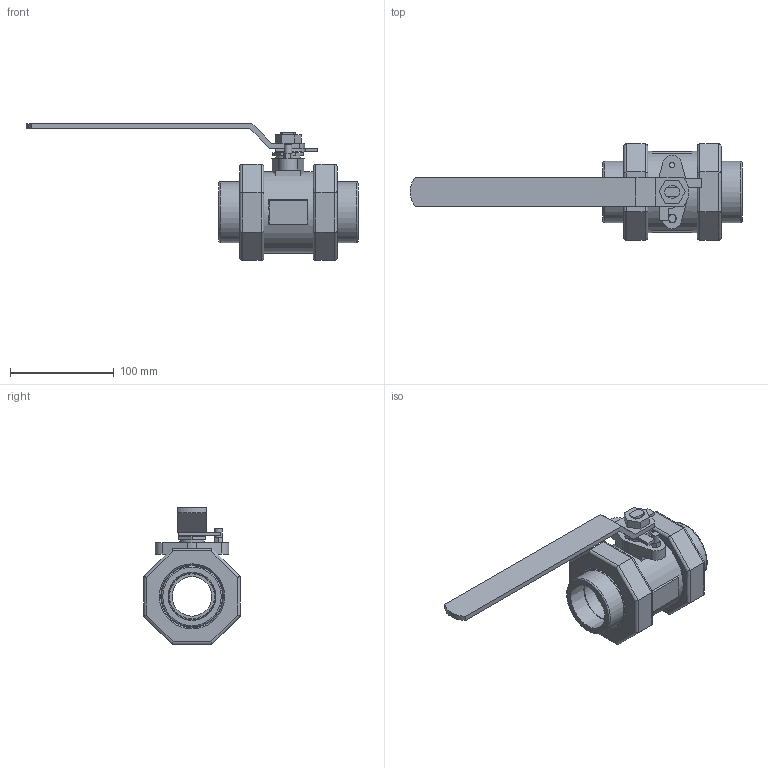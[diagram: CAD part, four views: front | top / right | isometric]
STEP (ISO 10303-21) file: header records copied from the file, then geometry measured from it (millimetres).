
FILE_DESCRIPTION((' '),'2;1');
FILE_NAME('N:\Technical Support\Private\Jomar Valve CAD\Ball Valves\CS and SS\2002N-DUE\1.5 T-CS[SS]-2002N-DUE (100-997 [100-987])FusionCopy.stp.step','2017-01-24T13:05:06',(' '),(' '),' ','ACIS',' ');
FILE_SCHEMA(('CONFIG_CONTROL_DESIGN'));
Length unit declared in the file: inch
Products named in the file (15): N:\Technical Support\Private\Jomar Valve CAD\Ball Valves\CS and SS\2002N-DUE\1.5 T-CS[SS]-2002N-DUE (100-997 [100-987])FusionCopy.stp.step; Body1; Body2; Body3; Body4; Body5; Body6; Body7; Body8; Body9; Body10; Body11; Body12; Body13; Body14
Assembly tree (14 placements, depth 2):
  N:\Technical Support\Private\Jomar Valve CAD\Ball Valves\CS and SS\2002N-DUE\1.5 T-CS[SS]-2002N-DUE (100-997 [100-987])FusionCopy.stp.step
    Body1
    Body2
    Body3
    Body4
    Body5
    Body6
    Body7
    Body8
    Body9
    Body10
    Body11
    Body12
    Body13
    Body14
Bounding box: 320.27 x 92.84 x 132.12 mm (x, y, z)
Volume: 548408.3 mm3; surface area: 141394.4 mm2
Topology: 14 solids, 14 shells, 202 faces, 432 edges, 276 vertices
Faces by surface type: plane 93, bspline 54, cylinder 51, cone 3, torus 1
Full cylindrical faces by diameter (mm): 5.207 x1, 6.223 x1, 7.315 x1, 12.395 x1, 17.018 x1, 23.698 x1, 38.1 x2, 43.434 x1, 52.324 x2, 58.801 x2, 58.953 x1, 59.944 x1, 60.274 x1, 66.548 x1, 66.98 x1, 67.894 x1, 78.41 x1, 80.518 x1, 82.22 x1
Entity records: 7774 total; most frequent: CARTESIAN_POINT 1477, DIRECTION 877, ORIENTED_EDGE 772, EDGE_CURVE 386, AXIS2_PLACEMENT_3D 316, EDGE_LOOP 285, VERTEX_POINT 269, VECTOR 245
